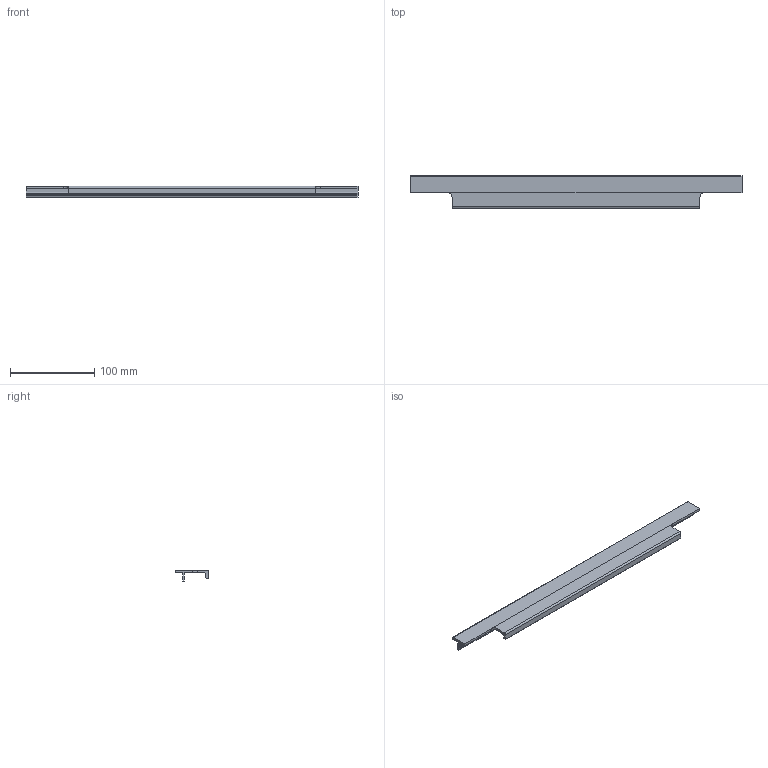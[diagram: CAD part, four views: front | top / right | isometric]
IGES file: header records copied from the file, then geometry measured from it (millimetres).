
Start section: Data from Parasolid IGES Translator 15.0.47, Copyright(c) 2006 Siemens P LM Software. All Rights Reserved.
Global section: file name: 9105819.igs; native system:  By UGS Corp.; preprocessor: XPlus GENERIC/IGES 3.0; author: Noname; organization: Noname; date: 20140122.180041; units: millimetre
Bounding box: 395 x 39 x 14 mm (x, y, z)
Surface area: 41845.3 mm2 (no closed solid volume)
Topology: 0 solids, 0 shells, 40 faces, 224 edges, 224 vertices
Faces by surface type: extrusion 30, revolution 10
